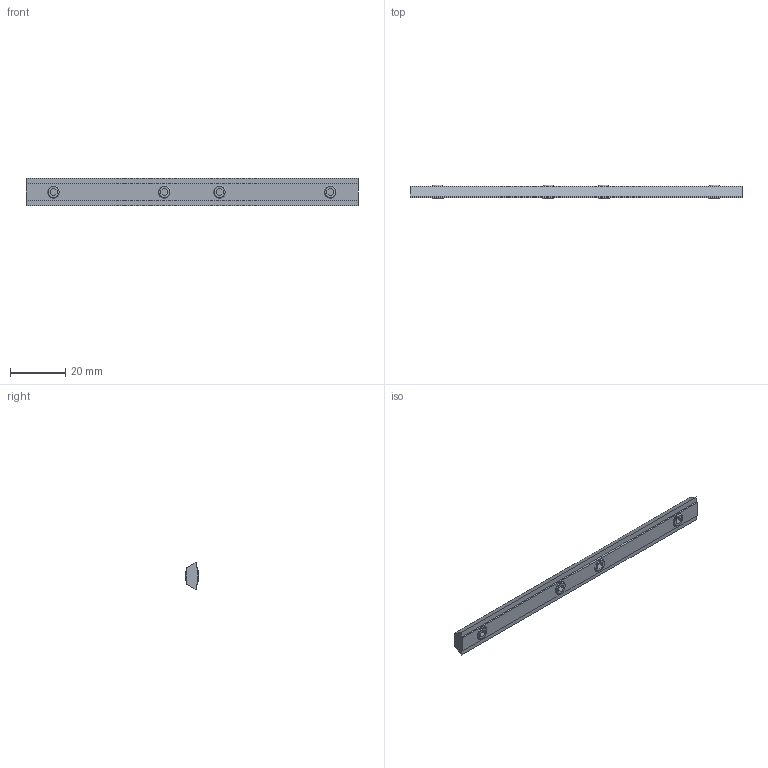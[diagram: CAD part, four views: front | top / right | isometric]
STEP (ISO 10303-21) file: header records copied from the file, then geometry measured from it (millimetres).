
FILE_DESCRIPTION (( 'STEP AP214' ), '1' );
FILE_NAME ('SHNTLG5-SET.step', '2025-12-02T04:20:12', ( '' ), ( '' ), 'SwSTEP 2.0', 'SolidWorks 2016', '' );
FILE_SCHEMA (( 'AUTOMOTIVE_DESIGN' ));
Length unit declared in the file: millimetre
Products named in the file (1): SHNTLG5-SET
Bounding box: 120 x 5 x 10 mm (x, y, z)
Volume: 3839.6 mm3; surface area: 3675.5 mm2
Topology: 5 solids, 5 shells, 62 faces, 136 edges, 88 vertices
Faces by surface type: plane 46, cylinder 8, cone 8
Full cylindrical faces by diameter (mm): 4.134 x4, 5 x4
Entity records: 1741 total; most frequent: CARTESIAN_POINT 271, DIRECTION 270, ORIENTED_EDGE 240, EDGE_CURVE 120, LINE 96, VECTOR 96, EDGE_LOOP 90, VERTEX_POINT 88
